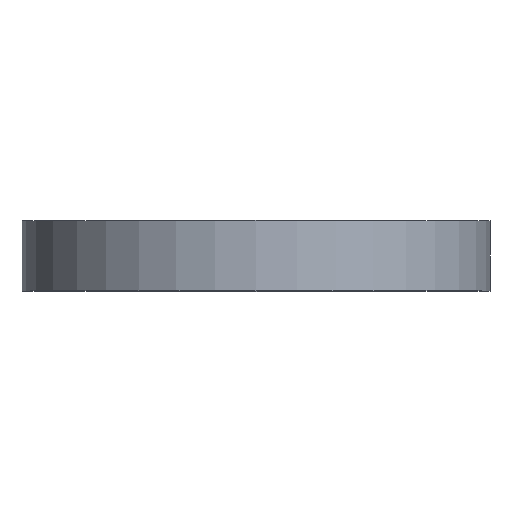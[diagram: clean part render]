
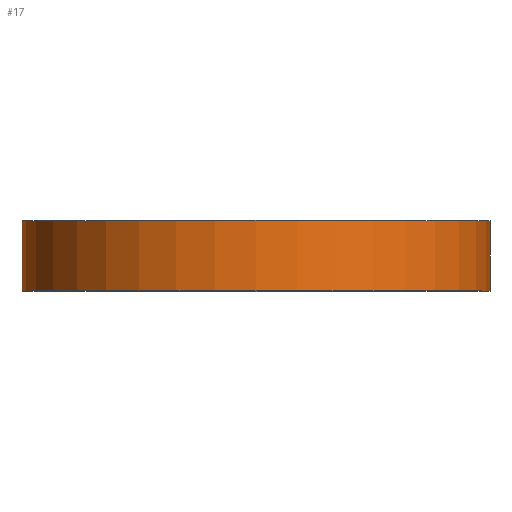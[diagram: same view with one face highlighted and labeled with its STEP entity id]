
A CAD part, top view. The second image highlights one B-rep face of the part: STEP entity #17.
In plain terms, the highlighted cylindrical face has radius 60 mm (diameter 120 mm), a full revolution.
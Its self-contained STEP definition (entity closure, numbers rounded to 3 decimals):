
#17 = ADVANCED_FACE('',(#18),#31,.T.);
#18 = FACE_BOUND('',#19,.T.);
#19 = EDGE_LOOP('',(#20,#54,#77,#104));
#20 = ORIENTED_EDGE('',*,*,#21,.F.);
#21 = EDGE_CURVE('',#22,#22,#24,.T.);
#22 = VERTEX_POINT('',#23);
#23 = CARTESIAN_POINT('',(60.,-69.,0.));
#24 = SURFACE_CURVE('',#25,(#30,#42),.PCURVE_S1.);
#25 = CIRCLE('',#26,60.);
#26 = AXIS2_PLACEMENT_3D('',#27,#28,#29);
#27 = CARTESIAN_POINT('',(0.,-69.,0.));
#28 = DIRECTION('',(0.,-1.,0.));
#29 = DIRECTION('',(1.,0.,0.));
#30 = PCURVE('',#31,#36);
#31 = CYLINDRICAL_SURFACE('',#32,60.);
#32 = AXIS2_PLACEMENT_3D('',#33,#34,#35);
#33 = CARTESIAN_POINT('',(0.,-51.,0.));
#34 = DIRECTION('',(0.,-1.,0.));
#35 = DIRECTION('',(1.,0.,0.));
#36 = DEFINITIONAL_REPRESENTATION('',(#37),#41);
#37 = LINE('',#38,#39);
#38 = CARTESIAN_POINT('',(0.,18.));
#39 = VECTOR('',#40,1.);
#40 = DIRECTION('',(1.,0.));
#41 = ( GEOMETRIC_REPRESENTATION_CONTEXT(2) 
PARAMETRIC_REPRESENTATION_CONTEXT() REPRESENTATION_CONTEXT('2D SPACE',''
  ) );
#42 = PCURVE('',#43,#48);
#43 = PLANE('',#44);
#44 = AXIS2_PLACEMENT_3D('',#45,#46,#47);
#45 = CARTESIAN_POINT('',(0.,-69.,0.));
#46 = DIRECTION('',(0.,-1.,0.));
#47 = DIRECTION('',(1.,0.,0.));
#48 = DEFINITIONAL_REPRESENTATION('',(#49),#53);
#49 = CIRCLE('',#50,60.);
#50 = AXIS2_PLACEMENT_2D('',#51,#52);
#51 = CARTESIAN_POINT('',(0.,0.));
#52 = DIRECTION('',(1.,0.));
#53 = ( GEOMETRIC_REPRESENTATION_CONTEXT(2) 
PARAMETRIC_REPRESENTATION_CONTEXT() REPRESENTATION_CONTEXT('2D SPACE',''
  ) );
#54 = ORIENTED_EDGE('',*,*,#55,.F.);
#55 = EDGE_CURVE('',#56,#22,#58,.T.);
#56 = VERTEX_POINT('',#57);
#57 = CARTESIAN_POINT('',(60.,-51.,0.));
#58 = SEAM_CURVE('',#59,(#63,#70),.PCURVE_S1.);
#59 = LINE('',#60,#61);
#60 = CARTESIAN_POINT('',(60.,-51.,0.));
#61 = VECTOR('',#62,1.);
#62 = DIRECTION('',(0.,-1.,0.));
#63 = PCURVE('',#31,#64);
#64 = DEFINITIONAL_REPRESENTATION('',(#65),#69);
#65 = LINE('',#66,#67);
#66 = CARTESIAN_POINT('',(6.283,-0.));
#67 = VECTOR('',#68,1.);
#68 = DIRECTION('',(0.,1.));
#69 = ( GEOMETRIC_REPRESENTATION_CONTEXT(2) 
PARAMETRIC_REPRESENTATION_CONTEXT() REPRESENTATION_CONTEXT('2D SPACE',''
  ) );
#70 = PCURVE('',#31,#71);
#71 = DEFINITIONAL_REPRESENTATION('',(#72),#76);
#72 = LINE('',#73,#74);
#73 = CARTESIAN_POINT('',(0.,-0.));
#74 = VECTOR('',#75,1.);
#75 = DIRECTION('',(0.,1.));
#76 = ( GEOMETRIC_REPRESENTATION_CONTEXT(2) 
PARAMETRIC_REPRESENTATION_CONTEXT() REPRESENTATION_CONTEXT('2D SPACE',''
  ) );
#77 = ORIENTED_EDGE('',*,*,#78,.T.);
#78 = EDGE_CURVE('',#56,#56,#79,.T.);
#79 = SURFACE_CURVE('',#80,(#85,#92),.PCURVE_S1.);
#80 = CIRCLE('',#81,60.);
#81 = AXIS2_PLACEMENT_3D('',#82,#83,#84);
#82 = CARTESIAN_POINT('',(0.,-51.,0.));
#83 = DIRECTION('',(0.,-1.,0.));
#84 = DIRECTION('',(1.,0.,0.));
#85 = PCURVE('',#31,#86);
#86 = DEFINITIONAL_REPRESENTATION('',(#87),#91);
#87 = LINE('',#88,#89);
#88 = CARTESIAN_POINT('',(0.,0.));
#89 = VECTOR('',#90,1.);
#90 = DIRECTION('',(1.,0.));
#91 = ( GEOMETRIC_REPRESENTATION_CONTEXT(2) 
PARAMETRIC_REPRESENTATION_CONTEXT() REPRESENTATION_CONTEXT('2D SPACE',''
  ) );
#92 = PCURVE('',#93,#98);
#93 = PLANE('',#94);
#94 = AXIS2_PLACEMENT_3D('',#95,#96,#97);
#95 = CARTESIAN_POINT('',(0.,-51.,0.));
#96 = DIRECTION('',(0.,-1.,0.));
#97 = DIRECTION('',(1.,0.,0.));
#98 = DEFINITIONAL_REPRESENTATION('',(#99),#103);
#99 = CIRCLE('',#100,60.);
#100 = AXIS2_PLACEMENT_2D('',#101,#102);
#101 = CARTESIAN_POINT('',(0.,0.));
#102 = DIRECTION('',(1.,0.));
#103 = ( GEOMETRIC_REPRESENTATION_CONTEXT(2) 
PARAMETRIC_REPRESENTATION_CONTEXT() REPRESENTATION_CONTEXT('2D SPACE',''
  ) );
#104 = ORIENTED_EDGE('',*,*,#55,.T.);
